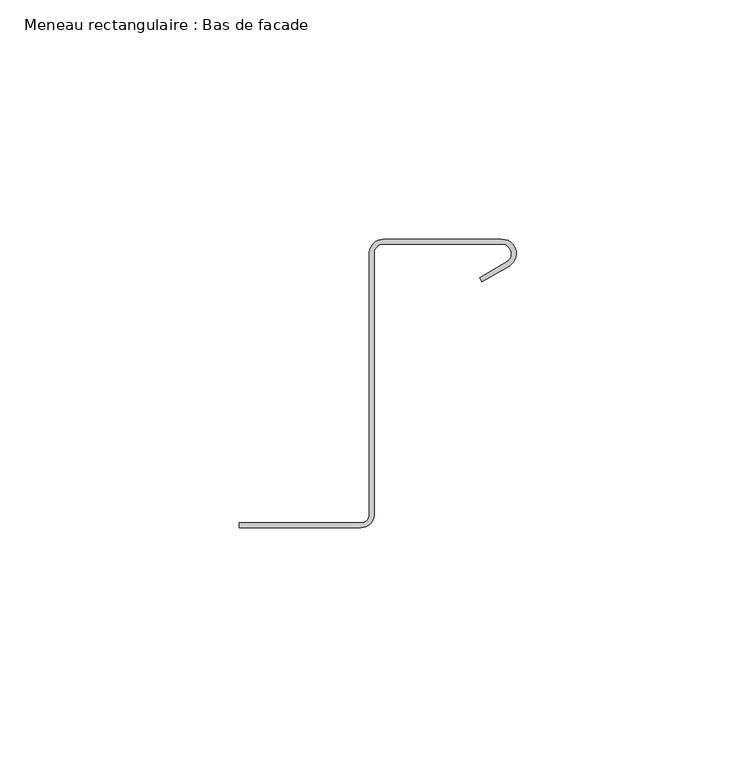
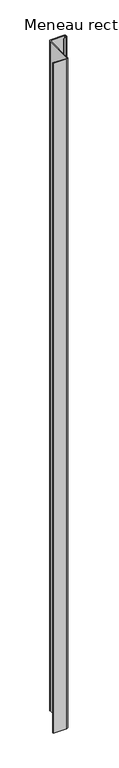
"""IFC4 building model written with IfcOpenShell, lengths in millimetres: member geometry, Meneau rectangulaire : Bas de facade."""

from ifc_helpers import new_model, si_unit, point, frame, frame_2d, origin, place, context, project, spatial, polyline, circle_curve, trimmed, segment, composite_curve, outline, extrude, source, transform, mapped, element, save


def meneau_rectangulaire_bas_de_facade_1d87740d(model_context):
    return source(origin(), model_context, "Body", "SweptSolid", [
        extrude(outline(composite_curve([segment(polyline([(-32.4584179, -2.9588923), (-57.8548383, -2.9588923), (-57.8548383, -1.9588923), (-32.4584179, -1.9588923)]), True, "CONTINUOUS"), segment(trimmed(circle_curve(frame_2d((-32.4584179, -0.2088923)), 1.75), [point((-32.4584179, -1.9588923))], [point((-30.7239521, -0.4415475))], True, "CARTESIAN"), True, "CONTINUOUS"), segment(polyline([(-30.7239521, -0.4415475), (-30.7239521, 54.522067)]), True, "CONTINUOUS"), segment(trimmed(circle_curve(frame_2d((-27.735368, 54.2605998)), 3.0), [point((-30.7239521, 54.522067))], [point((-27.735368, 57.2605998))], False, "CARTESIAN"), True, "CONTINUOUS"), segment(polyline([(-27.735368, 57.2605998), (-3.0, 57.2605998)]), True, "CONTINUOUS"), segment(trimmed(circle_curve(frame_2d((-3.0, 54.2605998)), 3.0), [point((-3.0, 57.2605998))], [point((-1.5, 51.6625235))], False, "CARTESIAN"), True, "CONTINUOUS"), segment(polyline([(-1.5, 51.6625235), (-7.1638061, 48.3925235), (-7.6638061, 49.258549), (-2.0, 52.528549)]), True, "CONTINUOUS"), segment(trimmed(circle_curve(frame_2d((-3.0, 54.2605998)), 2.0), [point((-2.0, 52.528549))], [point((-3.0, 56.2605998))], True, "CARTESIAN"), True, "CONTINUOUS"), segment(polyline([(-3.0, 56.2605998), (-27.735368, 56.2605998)]), True, "CONTINUOUS"), segment(trimmed(circle_curve(frame_2d((-27.735368, 54.2605998)), 2.0), [point((-27.735368, 56.2605998))], [point((-29.7143802, 54.5495817))], True, "CARTESIAN"), True, "CONTINUOUS"), segment(polyline([(-29.7143802, 54.5495817), (-29.7143802, -0.3898824)]), True, "CONTINUOUS"), segment(trimmed(circle_curve(frame_2d((-32.4584179, -0.2088923)), 2.75), [point((-29.7143802, -0.3898824))], [point((-32.4584179, -2.9588923))], False, "CARTESIAN"), True, "CONTINUOUS")], self_intersect=False)), frame((0.0, 0.0, -1340.0), z_axis=(0.0, 0.0, 1.0), x_axis=(1.0, 0.0, 0.0)), (0.0, 0.0, 1.0), 1340.0),
    ])


if __name__ == "__main__":
    model = new_model("IFC4")
    model_context = context("Model", 3, world=origin())
    ifc_project = project(units=[si_unit("LENGTHUNIT", "METRE", prefix="MILLI")], contexts=[model_context])
    site = spatial("IfcSite", under=ifc_project)
    building = spatial("IfcBuilding", under=site)
    placement = place(None, origin())
    meneau_rectangulaire_bas_de_facade_shape = meneau_rectangulaire_bas_de_facade_1d87740d(model_context)
    element("IfcMember", 1, ObjectType="Meneau rectangulaire : Bas de facade", at=placement, inside=building, context=model_context, shape_type="MappedRepresentation", body=[
        mapped(meneau_rectangulaire_bas_de_facade_shape, transform((0.0, 0.0, 0.0), x_axis=(1.0, 0.0, 0.0), y_axis=(0.0, 1.0, 0.0), z_axis=(0.0, 0.0, 1.0))),
    ])
    save(model, "model.ifc")
